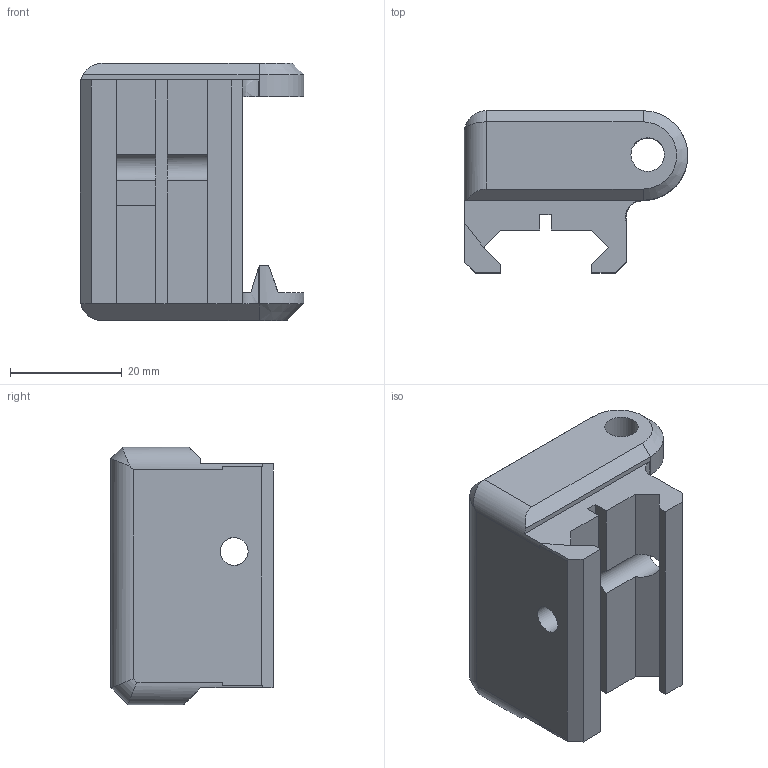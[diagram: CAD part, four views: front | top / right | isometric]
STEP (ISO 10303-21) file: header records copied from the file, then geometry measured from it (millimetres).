
FILE_DESCRIPTION(/* description */ (''),/* implementation_level */ '2;1');
FILE_NAME(/* name */ 'C:/Users/jeremy/OneDrive/Desktop/SpaceGat 22 Release/Brace Hinge.step',/* time_stamp */ '2021-01-18T14:15:57-07:00',/* author */ (''),/* organization */ (''),/* preprocessor_version */ 'ST-DEVELOPER v18.1',/* originating_system */ 'Autodesk Translation Framework v9.7.1.1290',/* authorisation */ '');
FILE_SCHEMA (('AUTOMOTIVE_DESIGN { 1 0 10303 214 3 1 1 }'));
Length unit declared in the file: inch
Products named in the file (1): Space Gun Beta Ready
Bounding box: 40 x 28.99 x 46 mm (x, y, z)
Volume: 16783 mm3; surface area: 8897 mm2
Topology: 1 solids, 1 shells, 97 faces, 285 edges, 187 vertices
Faces by surface type: plane 81, cylinder 12, bspline 2, cone 2
Full cylindrical faces by diameter (mm): 5 x2, 6 x2
Entity records: 3442 total; most frequent: CARTESIAN_POINT 751, ORIENTED_EDGE 570, DIRECTION 532, EDGE_CURVE 285, LINE 216, VECTOR 216, VERTEX_POINT 187, AXIS2_PLACEMENT_3D 158
